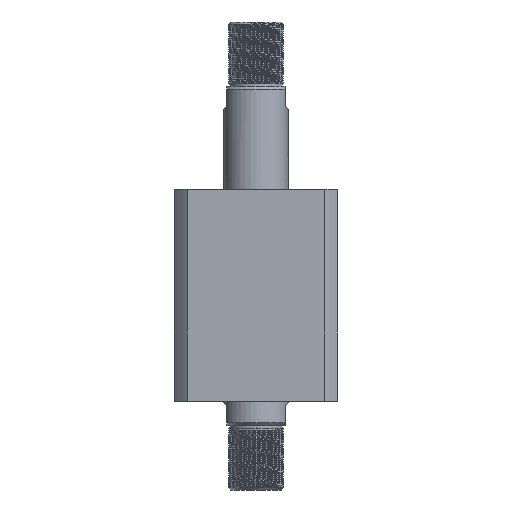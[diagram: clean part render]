
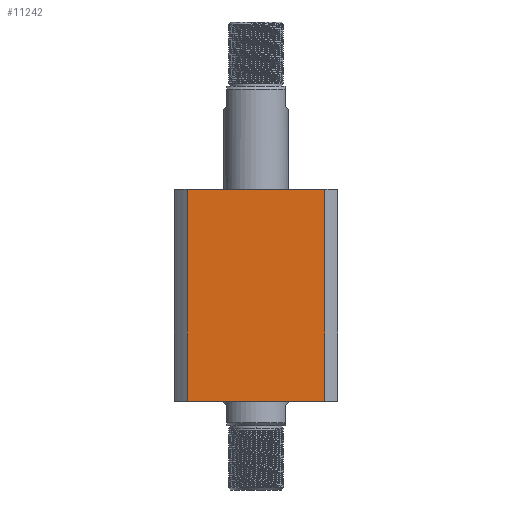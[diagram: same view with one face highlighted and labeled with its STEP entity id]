
A CAD part, front view. The second image highlights one B-rep face of the part: STEP entity #11242.
In plain terms, the highlighted planar face has unit normal (0, -1, 0) as drawn and (-1, 0, 0) by its records, which use the part's own axes.
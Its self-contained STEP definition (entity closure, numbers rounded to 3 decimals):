
#2919 = EDGE_CURVE ( 'NONE', #23873, #11919, #14747, .T. ) ;
#3096 = FACE_OUTER_BOUND ( 'NONE', #9713, .T. ) ;
#4668 = AXIS2_PLACEMENT_3D ( 'NONE', #9684, #11723, #25853 ) ;
#4809 = CARTESIAN_POINT ( 'NONE',  ( -57., -47.971, 148. ) ) ;
#4829 = CARTESIAN_POINT ( 'NONE',  ( -57., -47.971, 0. ) ) ;
#5536 = PLANE ( 'NONE',  #4668 ) ;
#6079 = DIRECTION ( 'NONE',  ( 0., 0., 1. ) ) ;
#6466 = LINE ( 'NONE', #7061, #11230 ) ;
#6543 = LINE ( 'NONE', #20878, #11308 ) ;
#7061 = CARTESIAN_POINT ( 'NONE',  ( -57., 57., 148. ) ) ;
#7210 = ORIENTED_EDGE ( 'NONE', *, *, #20654, .T. ) ;
#7768 = VERTEX_POINT ( 'NONE', #8823 ) ;
#8450 = ORIENTED_EDGE ( 'NONE', *, *, #24421, .F. ) ;
#8823 = CARTESIAN_POINT ( 'NONE',  ( -57., 47.971, 148. ) ) ;
#9684 = CARTESIAN_POINT ( 'NONE',  ( -57., 57., 148. ) ) ;
#9713 = EDGE_LOOP ( 'NONE', ( #17324, #7210, #18559, #8450 ) ) ;
#10498 = EDGE_CURVE ( 'NONE', #10673, #7768, #26180, .T. ) ;
#10673 = VERTEX_POINT ( 'NONE', #18423 ) ;
#11230 = VECTOR ( 'NONE', #19169, 1000. ) ;
#11242 = ADVANCED_FACE ( 'NONE', ( #3096 ), #5536, .F. ) ;
#11308 = VECTOR ( 'NONE', #14883, 1000. ) ;
#11723 = DIRECTION ( 'NONE',  ( 1., 0., 0. ) ) ;
#11919 = VERTEX_POINT ( 'NONE', #4829 ) ;
#14747 = LINE ( 'NONE', #17933, #24855 ) ;
#14883 = DIRECTION ( 'NONE',  ( 0., -1., 0. ) ) ;
#15899 = DIRECTION ( 'NONE',  ( 0., 0., -1. ) ) ;
#17324 = ORIENTED_EDGE ( 'NONE', *, *, #10498, .F. ) ;
#17933 = CARTESIAN_POINT ( 'NONE',  ( -57., -47.971, -152. ) ) ;
#18108 = CARTESIAN_POINT ( 'NONE',  ( -57., 47.971, -152. ) ) ;
#18423 = CARTESIAN_POINT ( 'NONE',  ( -57., 47.971, 0. ) ) ;
#18559 = ORIENTED_EDGE ( 'NONE', *, *, #2919, .F. ) ;
#19169 = DIRECTION ( 'NONE',  ( 0., -1., 0. ) ) ;
#20654 = EDGE_CURVE ( 'NONE', #10673, #11919, #6543, .T. ) ;
#20878 = CARTESIAN_POINT ( 'NONE',  ( -57., 57., 0. ) ) ;
#23873 = VERTEX_POINT ( 'NONE', #4809 ) ;
#24421 = EDGE_CURVE ( 'NONE', #7768, #23873, #6466, .T. ) ;
#24855 = VECTOR ( 'NONE', #15899, 1000. ) ;
#25554 = VECTOR ( 'NONE', #6079, 1000. ) ;
#25853 = DIRECTION ( 'NONE',  ( 0., 1., 0. ) ) ;
#26180 = LINE ( 'NONE', #18108, #25554 ) ;
